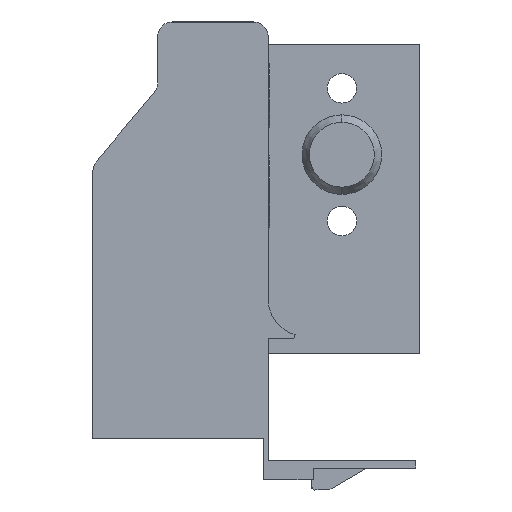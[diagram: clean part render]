
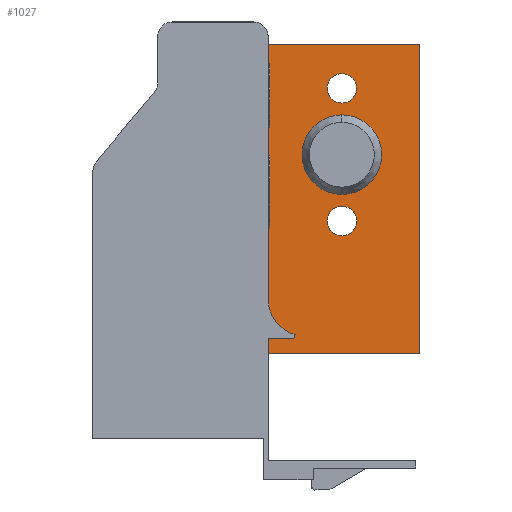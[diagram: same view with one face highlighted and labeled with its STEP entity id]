
A CAD part, front view. The second image highlights one B-rep face of the part: STEP entity #1027.
In plain terms, the highlighted planar face has unit normal (0, -1, 0).
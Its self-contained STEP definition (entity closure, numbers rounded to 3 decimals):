
#60 = ORIENTED_EDGE ( 'NONE', *, *, #2072, .F. ) ;
#64 = ORIENTED_EDGE ( 'NONE', *, *, #2140, .F. ) ;
#75 = ORIENTED_EDGE ( 'NONE', *, *, #2124, .F. ) ;
#85 = ORIENTED_EDGE ( 'NONE', *, *, #1941, .T. ) ;
#93 = ORIENTED_EDGE ( 'NONE', *, *, #2152, .F. ) ;
#145 = ORIENTED_EDGE ( 'NONE', *, *, #2038, .F. ) ;
#154 = ORIENTED_EDGE ( 'NONE', *, *, #2089, .T. ) ;
#160 = ORIENTED_EDGE ( 'NONE', *, *, #1989, .T. ) ;
#259 = ORIENTED_EDGE ( 'NONE', *, *, #2020, .F. ) ;
#268 = ORIENTED_EDGE ( 'NONE', *, *, #2200, .F. ) ;
#275 = ORIENTED_EDGE ( 'NONE', *, *, #1964, .T. ) ;
#283 = ORIENTED_EDGE ( 'NONE', *, *, #2136, .T. ) ;
#330 = DIRECTION ( 'NONE',  ( 0., 0., 1. ) ) ;
#357 = CARTESIAN_POINT ( 'NONE',  ( 21.1, 447.2, 20. ) ) ;
#366 = CARTESIAN_POINT ( 'NONE',  ( 33.5, 447.2, 34. ) ) ;
#368 = VERTEX_POINT ( 'NONE', #499 ) ;
#369 = VERTEX_POINT ( 'NONE', #366 ) ;
#386 = VERTEX_POINT ( 'NONE', #512 ) ;
#392 = VERTEX_POINT ( 'NONE', #518 ) ;
#396 = VERTEX_POINT ( 'NONE', #522 ) ;
#399 = VERTEX_POINT ( 'NONE', #525 ) ;
#467 = VERTEX_POINT ( 'NONE', #591 ) ;
#468 = VERTEX_POINT ( 'NONE', #592 ) ;
#469 = VERTEX_POINT ( 'NONE', #593 ) ;
#470 = VERTEX_POINT ( 'NONE', #594 ) ;
#472 = VERTEX_POINT ( 'NONE', #596 ) ;
#478 = VERTEX_POINT ( 'NONE', #602 ) ;
#499 = CARTESIAN_POINT ( 'NONE',  ( 29.5, 447.2, 16. ) ) ;
#512 = CARTESIAN_POINT ( 'NONE',  ( 31.5, 447.2, 19.6 ) ) ;
#518 = CARTESIAN_POINT ( 'NONE',  ( 31.5, 447.2, 30.4 ) ) ;
#522 = CARTESIAN_POINT ( 'NONE',  ( 33.5, 447.2, 16. ) ) ;
#525 = CARTESIAN_POINT ( 'NONE',  ( 29.5, 447.2, 34. ) ) ;
#591 = CARTESIAN_POINT ( 'NONE',  ( 21.1, 447.2, -0.405 ) ) ;
#592 = CARTESIAN_POINT ( 'NONE',  ( 21.5, 447.2, -2. ) ) ;
#593 = CARTESIAN_POINT ( 'NONE',  ( 21.1, 447.2, 40. ) ) ;
#594 = CARTESIAN_POINT ( 'NONE',  ( 21.5, 447.2, -0.405 ) ) ;
#596 = CARTESIAN_POINT ( 'NONE',  ( 42., 447.2, 40. ) ) ;
#602 = CARTESIAN_POINT ( 'NONE',  ( 42., 447.2, -2. ) ) ;
#841 = PLANE ( 'NONE',  #2180 ) ;
#844 = CARTESIAN_POINT ( 'NONE',  ( 21.1, 447.2, 20. ) ) ;
#849 = DIRECTION ( 'NONE',  ( 0., -1., 0. ) ) ;
#850 = DIRECTION ( 'NONE',  ( -1., 0., 0. ) ) ;
#914 = CARTESIAN_POINT ( 'NONE',  ( 21.1, 447.2, -0.405 ) ) ;
#915 = DIRECTION ( 'NONE',  ( 1., 0., 0. ) ) ;
#954 = CARTESIAN_POINT ( 'NONE',  ( 31.5, 447.2, 25. ) ) ;
#955 = DIRECTION ( 'NONE',  ( 0., 1., 0. ) ) ;
#956 = DIRECTION ( 'NONE',  ( -1., 0., 0. ) ) ;
#1027 = ADVANCED_FACE ( 'NONE', ( #1126, #1130, #1132, #1134 ), #841, .T. ) ;
#1057 = EDGE_LOOP ( 'NONE', ( #75, #268 ) ) ;
#1060 = EDGE_LOOP ( 'NONE', ( #275, #154 ) ) ;
#1086 = EDGE_LOOP ( 'NONE', ( #64, #145 ) ) ;
#1087 = EDGE_LOOP ( 'NONE', ( #85, #93, #60, #160, #283, #259 ) ) ;
#1126 = FACE_OUTER_BOUND ( 'NONE', #1087, .T. ) ;
#1130 = FACE_BOUND ( 'NONE', #1060, .T. ) ;
#1132 = FACE_BOUND ( 'NONE', #1086, .T. ) ;
#1134 = FACE_BOUND ( 'NONE', #1057, .T. ) ;
#1159 = VECTOR ( 'NONE', #915, 1000. ) ;
#1168 = LINE ( 'NONE', #914, #1159 ) ;
#1204 = CIRCLE ( 'NONE', #2085, 5.4 ) ;
#1215 = LINE ( 'NONE', #1814, #1223 ) ;
#1223 = VECTOR ( 'NONE', #330, 1000. ) ;
#1249 = VECTOR ( 'NONE', #1466, 1000. ) ;
#1257 = LINE ( 'NONE', #357, #1249 ) ;
#1277 = CIRCLE ( 'NONE', #2165, 2. ) ;
#1282 = VECTOR ( 'NONE', #1527, 1000. ) ;
#1298 = LINE ( 'NONE', #1526, #1282 ) ;
#1323 = CIRCLE ( 'NONE', #2118, 5.4 ) ;
#1354 = LINE ( 'NONE', #1613, #1355 ) ;
#1355 = VECTOR ( 'NONE', #1614, 1000. ) ;
#1356 = CIRCLE ( 'NONE', #1938, 2. ) ;
#1373 = CIRCLE ( 'NONE', #2166, 2. ) ;
#1375 = VECTOR ( 'NONE', #1636, 1000. ) ;
#1377 = LINE ( 'NONE', #1635, #1375 ) ;
#1431 = CIRCLE ( 'NONE', #2087, 2. ) ;
#1466 = DIRECTION ( 'NONE',  ( 0., 0., 1. ) ) ;
#1486 = CARTESIAN_POINT ( 'NONE',  ( 31.5, 447.2, 16. ) ) ;
#1487 = DIRECTION ( 'NONE',  ( 0., -1., 0. ) ) ;
#1488 = DIRECTION ( 'NONE',  ( -1., 0., 0. ) ) ;
#1526 = CARTESIAN_POINT ( 'NONE',  ( 21.5, 447.2, -2. ) ) ;
#1527 = DIRECTION ( 'NONE',  ( -1., 0., 0. ) ) ;
#1543 = CARTESIAN_POINT ( 'NONE',  ( 31.5, 447.2, 25. ) ) ;
#1549 = DIRECTION ( 'NONE',  ( 0., 1., 0. ) ) ;
#1550 = DIRECTION ( 'NONE',  ( -1., 0., 0. ) ) ;
#1600 = CARTESIAN_POINT ( 'NONE',  ( 31.5, 447.2, 34. ) ) ;
#1601 = DIRECTION ( 'NONE',  ( 0., -1., 0. ) ) ;
#1602 = DIRECTION ( 'NONE',  ( -1., 0., 0. ) ) ;
#1613 = CARTESIAN_POINT ( 'NONE',  ( 21.1, 447.2, 40. ) ) ;
#1614 = DIRECTION ( 'NONE',  ( -1., 0., 0. ) ) ;
#1622 = CARTESIAN_POINT ( 'NONE',  ( 31.5, 447.2, 16. ) ) ;
#1623 = DIRECTION ( 'NONE',  ( 0., -1., 0. ) ) ;
#1624 = DIRECTION ( 'NONE',  ( -1., 0., 0. ) ) ;
#1635 = CARTESIAN_POINT ( 'NONE',  ( 21.5, 447.2, -64.538 ) ) ;
#1636 = DIRECTION ( 'NONE',  ( 0., 0., 1. ) ) ;
#1686 = CARTESIAN_POINT ( 'NONE',  ( 31.5, 447.2, 34. ) ) ;
#1699 = DIRECTION ( 'NONE',  ( 0., -1., 0. ) ) ;
#1700 = DIRECTION ( 'NONE',  ( -1., 0., 0. ) ) ;
#1814 = CARTESIAN_POINT ( 'NONE',  ( 42., 447.2, 20. ) ) ;
#1938 = AXIS2_PLACEMENT_3D ( 'NONE', #1600, #1601, #1602 ) ;
#1941 = EDGE_CURVE ( 'NONE', #467, #470, #1168, .T. ) ;
#1964 = EDGE_CURVE ( 'NONE', #392, #386, #1204, .T. ) ;
#1989 = EDGE_CURVE ( 'NONE', #478, #472, #1215, .T. ) ;
#2020 = EDGE_CURVE ( 'NONE', #467, #469, #1257, .T. ) ;
#2038 = EDGE_CURVE ( 'NONE', #368, #396, #1277, .T. ) ;
#2072 = EDGE_CURVE ( 'NONE', #478, #468, #1298, .T. ) ;
#2085 = AXIS2_PLACEMENT_3D ( 'NONE', #954, #955, #956 ) ;
#2087 = AXIS2_PLACEMENT_3D ( 'NONE', #1686, #1699, #1700 ) ;
#2089 = EDGE_CURVE ( 'NONE', #386, #392, #1323, .T. ) ;
#2118 = AXIS2_PLACEMENT_3D ( 'NONE', #1543, #1549, #1550 ) ;
#2124 = EDGE_CURVE ( 'NONE', #369, #399, #1356, .T. ) ;
#2136 = EDGE_CURVE ( 'NONE', #472, #469, #1354, .T. ) ;
#2140 = EDGE_CURVE ( 'NONE', #396, #368, #1373, .T. ) ;
#2152 = EDGE_CURVE ( 'NONE', #468, #470, #1377, .T. ) ;
#2165 = AXIS2_PLACEMENT_3D ( 'NONE', #1486, #1487, #1488 ) ;
#2166 = AXIS2_PLACEMENT_3D ( 'NONE', #1622, #1623, #1624 ) ;
#2180 = AXIS2_PLACEMENT_3D ( 'NONE', #844, #849, #850 ) ;
#2200 = EDGE_CURVE ( 'NONE', #399, #369, #1431, .T. ) ;
